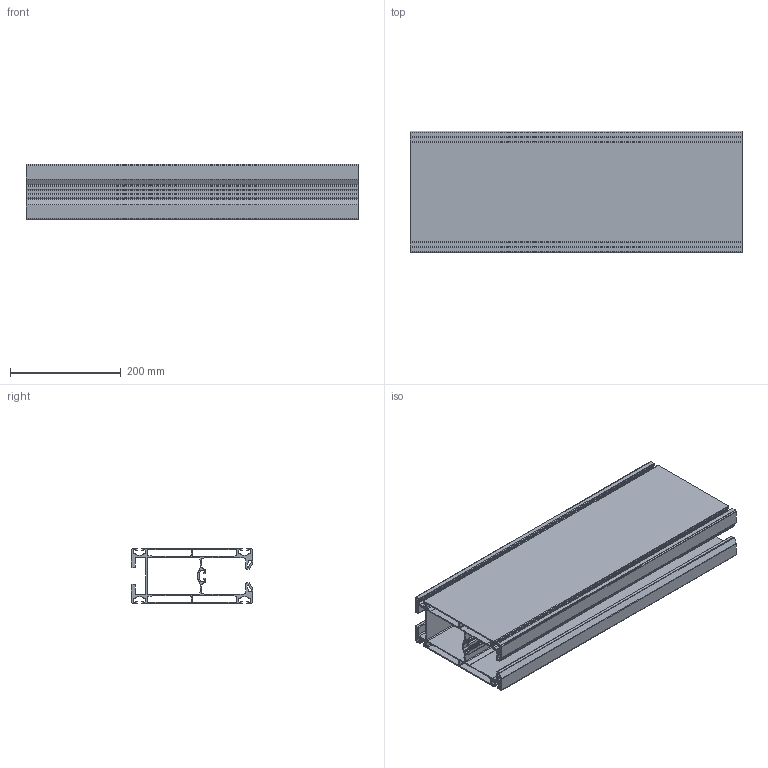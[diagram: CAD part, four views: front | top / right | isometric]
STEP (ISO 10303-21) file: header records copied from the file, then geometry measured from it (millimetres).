
FILE_DESCRIPTION (( 'STEP AP203' ), '1' );
FILE_NAME ('XL-220.STEP', '2020-12-12T08:48:43', ( '' ), ( '' ), 'SwSTEP 2.0', 'SolidWorks 2017', '' );
FILE_SCHEMA (( 'CONFIG_CONTROL_DESIGN' ));
Length unit declared in the file: millimetre
Products named in the file (1): XL-220
Bounding box: 600 x 220 x 100 mm (x, y, z)
Volume: 2199848.7 mm3; surface area: 1436803.1 mm2
Topology: 1 solids, 1 shells, 318 faces, 948 edges, 632 vertices
Faces by surface type: cylinder 162, plane 156
Entity records: 10881 total; most frequent: DIRECTION 1910, CARTESIAN_POINT 1899, ORIENTED_EDGE 1896, EDGE_CURVE 948, AXIS2_PLACEMENT_3D 643, VERTEX_POINT 632, VECTOR 624, LINE 624
